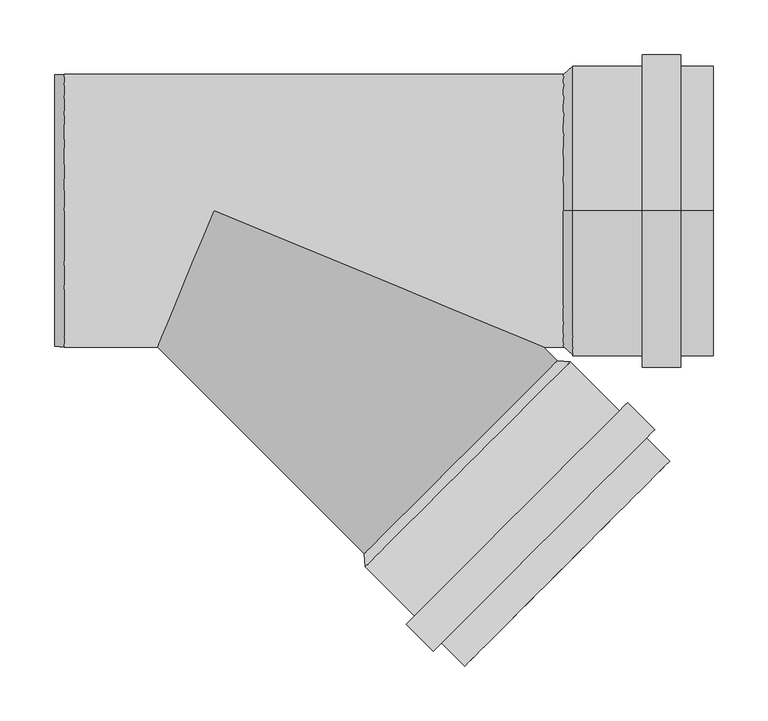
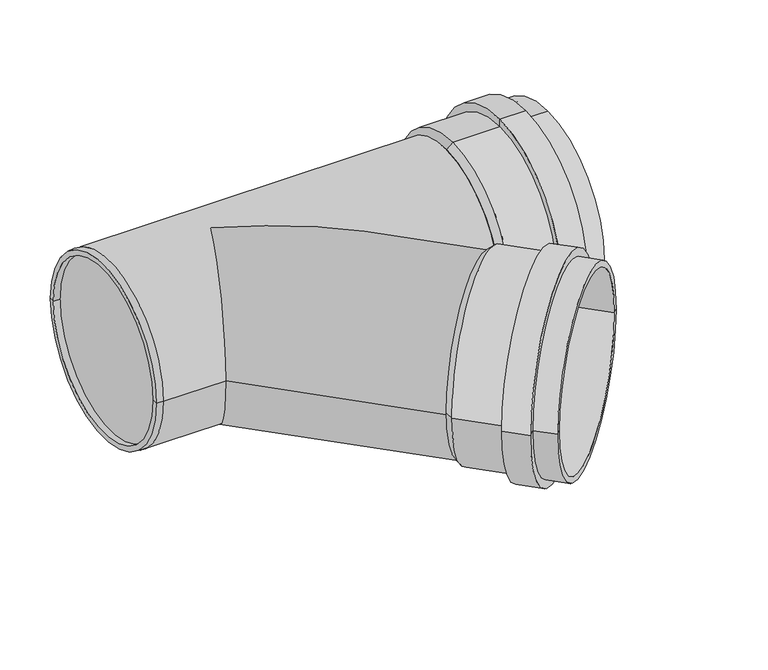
"""IFC4 building model written with IfcOpenShell, lengths in millimetres: pipe fitting geometry, OSMA_KG2000_PPKGEA : Odbočka 45°."""

from ifc_helpers import new_model, si_unit, frame, origin, place, context, project, spatial, polyline, circle_curve, ellipse_curve, source, transform, mapped, element, save
from ifc_brep_helpers import plane_surface, cylinder_surface, revolved_surface, advanced_brep


def pipe_fitting_a6234002(model_context):
    return source(origin(), model_context, "Body", "AdvancedBrep", [
        advanced_brep(
        [(320.6729253, -143.89623, 1.6299565), (143.89623, -320.6729253, 1.6299565), (234.7594514, -411.5361467, 1.6299565), (411.5361467, -234.7594514, 1.6299565), (371.0189281, -183.3527884, 1.6299565), (183.3527884, -371.0189281, 1.6299565), (138.4515078, -326.1176475, 1.6299565), (326.1176475, -138.4515078, 1.6299565), (378.6556813, -175.7160351, 1.6299565), (175.7160351, -378.6556813, 1.6299565), (403.4044187, -200.4647725, 1.6299565), (200.4647725, -403.4044187, 1.6299565), (395.7676654, -208.1015257, 1.6299565), (208.1015257, -395.7676654, 1.6299565), (416.9808689, -229.3147291, 1.6299565), (229.3147291, -416.9808689, 1.6299565), (308.864242, -142.9769912, 1.6299565), (142.9769912, -308.864242, 1.6299565), (314.3089642, -137.5322689, 1.6299565), (137.5322689, -314.3089642, 1.6299565)],
        [
            (0, 1, circle_curve(frame((232.2845776, -232.2845776, 1.6299565), z_axis=(-0.7071067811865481, 0.707106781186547, 0.0), x_axis=(-0.707106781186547, -0.7071067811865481, 0.0)), 125.0)),
            (1, 2),
            (2, 3, circle_curve(frame((323.147799, -323.147799, 1.6299565), z_axis=(0.7071067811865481, -0.707106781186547, 0.0), x_axis=(-0.707106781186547, -0.7071067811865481, 0.0)), 125.0)),
            (3, 0),
            (1, 0, circle_curve(frame((232.2845776, -232.2845776, 1.6299565), z_axis=(-0.7071067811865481, 0.707106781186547, 0.0), x_axis=(-0.707106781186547, -0.7071067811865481, 0.0)), 125.0)),
            (3, 2, circle_curve(frame((323.147799, -323.147799, 1.6299565), z_axis=(0.7071067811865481, -0.707106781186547, 0.0), x_axis=(-0.707106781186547, -0.7071067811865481, 0.0)), 125.0)),
            (4, 5, circle_curve(frame((277.1858582, -277.1858582, 1.6299565), z_axis=(-0.7071067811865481, 0.707106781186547, 0.0), x_axis=(-0.707106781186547, -0.7071067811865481, 0.0)), 132.7)),
            (5, 6),
            (6, 7, circle_curve(frame((232.2845776, -232.2845776, 1.6299565), z_axis=(0.7071067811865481, -0.707106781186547, 0.0), x_axis=(-0.707106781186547, -0.7071067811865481, 0.0)), 132.7)),
            (7, 4),
            (5, 4, circle_curve(frame((277.1858582, -277.1858582, 1.6299565), z_axis=(-0.7071067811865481, 0.707106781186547, 0.0), x_axis=(-0.707106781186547, -0.7071067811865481, 0.0)), 132.7)),
            (7, 6, circle_curve(frame((232.2845776, -232.2845776, 1.6299565), z_axis=(0.7071067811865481, -0.707106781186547, 0.0), x_axis=(-0.707106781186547, -0.7071067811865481, 0.0)), 132.7)),
            (8, 9, circle_curve(frame((277.1858582, -277.1858582, 1.6299565), z_axis=(-0.7071067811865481, 0.707106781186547, 0.0), x_axis=(-0.707106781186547, -0.7071067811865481, 0.0)), 143.5)),
            (9, 5),
            (4, 8),
            (9, 8, circle_curve(frame((277.1858582, -277.1858582, 1.6299565), z_axis=(-0.7071067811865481, 0.707106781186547, 0.0), x_axis=(-0.707106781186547, -0.7071067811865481, 0.0)), 143.5)),
            (10, 11, circle_curve(frame((301.9345956, -301.9345956, 1.6299565), z_axis=(-0.7071067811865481, 0.707106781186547, 0.0), x_axis=(-0.707106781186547, -0.7071067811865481, 0.0)), 143.5)),
            (11, 9),
            (8, 10),
            (11, 10, circle_curve(frame((301.9345956, -301.9345956, 1.6299565), z_axis=(-0.7071067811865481, 0.707106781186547, 0.0), x_axis=(-0.707106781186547, -0.7071067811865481, 0.0)), 143.5)),
            (12, 13, circle_curve(frame((301.9345956, -301.9345956, 1.6299565), z_axis=(-0.7071067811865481, 0.707106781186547, 0.0), x_axis=(-0.707106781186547, -0.7071067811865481, 0.0)), 132.7)),
            (13, 11),
            (10, 12),
            (13, 12, circle_curve(frame((301.9345956, -301.9345956, 1.6299565), z_axis=(-0.7071067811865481, 0.707106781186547, 0.0), x_axis=(-0.707106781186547, -0.7071067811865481, 0.0)), 132.7)),
            (14, 15, circle_curve(frame((323.147799, -323.147799, 1.6299565), z_axis=(-0.7071067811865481, 0.707106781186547, 0.0), x_axis=(-0.707106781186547, -0.7071067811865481, 0.0)), 132.7)),
            (15, 13),
            (12, 14),
            (15, 14, circle_curve(frame((323.147799, -323.147799, 1.6299565), z_axis=(-0.7071067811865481, 0.707106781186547, 0.0), x_axis=(-0.707106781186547, -0.7071067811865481, 0.0)), 132.7)),
            (2, 15),
            (14, 3),
            (16, 17, circle_curve(frame((225.9206166, -225.9206166, 1.6299565), z_axis=(-0.7071067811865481, 0.707106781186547, 0.0), x_axis=(-0.707106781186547, -0.7071067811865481, 0.0)), 117.3)),
            (17, 1),
            (0, 16),
            (17, 16, circle_curve(frame((225.9206166, -225.9206166, 1.6299565), z_axis=(-0.7071067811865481, 0.707106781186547, 0.0), x_axis=(-0.707106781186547, -0.7071067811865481, 0.0)), 117.3)),
            (18, 19, circle_curve(frame((225.9206166, -225.9206166, 1.6299565), z_axis=(-0.7071067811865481, 0.707106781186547, 0.0), x_axis=(-0.707106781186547, -0.7071067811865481, 0.0)), 125.0)),
            (19, 17),
            (16, 18),
            (19, 18, circle_curve(frame((225.9206166, -225.9206166, 1.6299565), z_axis=(-0.7071067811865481, 0.707106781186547, 0.0), x_axis=(-0.707106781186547, -0.7071067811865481, 0.0)), 125.0)),
            (6, 19),
            (18, 7),
        ],
        [
            revolved_surface(polyline([(234.75945140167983, -411.5361466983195, 1.6299565), (143.89622995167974, -320.6729252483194, 1.6299565)]), (2210.751122, -2210.751122, 1.6299565), (0.7071067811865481, -0.707106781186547, 0.0)),
            cylinder_surface(frame((2210.751122, -2210.751122, 1.6299565), z_axis=(0.7071067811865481, -0.707106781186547, 0.0), x_axis=(-0.707106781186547, -0.7071067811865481, 0.0)), 132.7),
            plane_surface(frame((277.1858582, -277.1858582, 1.6299565), z_axis=(-0.7071067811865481, 0.707106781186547, 0.0), x_axis=(-0.707106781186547, -0.7071067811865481, 0.0))),
            cylinder_surface(frame((2210.751122, -2210.751122, 1.6299565), z_axis=(0.7071067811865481, -0.707106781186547, 0.0), x_axis=(-0.707106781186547, -0.7071067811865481, 0.0)), 143.5),
            plane_surface(frame((301.9345956, -301.9345956, 1.6299565), z_axis=(0.7071067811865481, -0.707106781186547, 0.0), x_axis=(-0.707106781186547, -0.7071067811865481, 0.0))),
            plane_surface(frame((323.147799, -323.147799, 1.6299565), z_axis=(0.7071067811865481, -0.707106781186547, 0.0), x_axis=(-0.707106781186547, -0.7071067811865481, 0.0))),
            revolved_surface(polyline([(143.89623, -320.6729253, 1.6299565), (142.9769912, -308.864242, 1.6299565)]), (2210.751122, -2210.751122, 1.6299565), (0.7071067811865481, -0.707106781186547, 0.0)),
            plane_surface(frame((225.9206166, -225.9206166, 1.6299565), z_axis=(-0.7071067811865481, 0.707106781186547, 0.0), x_axis=(-0.707106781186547, -0.7071067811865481, 0.0))),
            revolved_surface(polyline([(137.5322689, -314.3089642, 1.6299565), (138.4515078, -326.1176475, 1.6299565)]), (2210.751122, -2210.751122, 1.6299565), (0.7071067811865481, -0.707106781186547, 0.0)),
        ],
        [
            (0, [[1, 2, 3, 4]]),
            (0, [[5, -4, 6, -2]]),
            (1, [[7, 8, 9, 10]]),
            (1, [[11, -10, 12, -8]]),
            (2, [[13, 14, -7, 15]]),
            (2, [[16, -15, -11, -14]]),
            (3, [[17, 18, -13, 19]]),
            (3, [[20, -19, -16, -18]]),
            (4, [[21, 22, -17, 23]]),
            (4, [[24, -23, -20, -22]]),
            (1, [[25, 26, -21, 27]]),
            (1, [[28, -27, -24, -26]]),
            (5, [[-3, 29, -25, 30]]),
            (5, [[-6, -30, -28, -29]]),
            (6, [[31, 32, -1, 33]]),
            (6, [[34, -33, -5, -32]]),
            (7, [[35, 36, -31, 37]]),
            (7, [[38, -37, -34, -36]]),
            (8, [[-9, 39, -35, 40]]),
            (8, [[-12, -40, -38, -39]]),
        ],
    ),
        advanced_brep(
        [(328.5, 0.0, -125.0), (328.5, 0.0, 125.0), (457.0, 0.0, 125.0), (457.0, 0.0, -125.0), (392.0, 0.0, -132.7), (392.0, 0.0, 132.7), (328.5, 0.0, 132.7), (328.5, 0.0, -132.7), (392.0, 0.0, -143.5), (392.0, 0.0, 143.5), (427.0, 0.0, -143.5), (427.0, 0.0, 143.5), (427.0, 0.0, -132.7), (427.0, 0.0, 132.7), (457.0, 0.0, -132.7), (457.0, 0.0, 132.7), (319.5, 0.0, -117.3), (319.5, 0.0, 117.3), (319.5, 0.0, -125.0), (319.5, 0.0, 125.0)],
        [
            (0, 1, circle_curve(frame((328.5, 0.0, 0.0), z_axis=(-1.0, 0.0, 0.0), x_axis=(0.0, 0.0, 1.0)), 125.0)),
            (1, 2),
            (2, 3, circle_curve(frame((457.0, 0.0, 0.0), z_axis=(1.0, 0.0, 0.0), x_axis=(0.0, 0.0, 1.0)), 125.0)),
            (3, 0),
            (1, 0, circle_curve(frame((328.5, 0.0, 0.0), z_axis=(-1.0, 0.0, 0.0), x_axis=(0.0, 0.0, 1.0)), 125.0)),
            (3, 2, circle_curve(frame((457.0, 0.0, 0.0), z_axis=(1.0, 0.0, 0.0), x_axis=(0.0, 0.0, 1.0)), 125.0)),
            (4, 5, circle_curve(frame((392.0, 0.0, 0.0), z_axis=(-1.0, 0.0, 0.0), x_axis=(0.0, 0.0, 1.0)), 132.7)),
            (5, 6),
            (6, 7, circle_curve(frame((328.5, 0.0, 0.0), z_axis=(1.0, 0.0, 0.0), x_axis=(0.0, 0.0, 1.0)), 132.7)),
            (7, 4),
            (5, 4, circle_curve(frame((392.0, 0.0, 0.0), z_axis=(-1.0, 0.0, 0.0), x_axis=(0.0, 0.0, 1.0)), 132.7)),
            (7, 6, circle_curve(frame((328.5, 0.0, 0.0), z_axis=(1.0, 0.0, 0.0), x_axis=(0.0, 0.0, 1.0)), 132.7)),
            (8, 9, circle_curve(frame((392.0, 0.0, 0.0), z_axis=(-1.0, 0.0, 0.0), x_axis=(0.0, 0.0, 1.0)), 143.5)),
            (9, 5),
            (4, 8),
            (9, 8, circle_curve(frame((392.0, 0.0, 0.0), z_axis=(-1.0, 0.0, 0.0), x_axis=(0.0, 0.0, 1.0)), 143.5)),
            (10, 11, circle_curve(frame((427.0, 0.0, 0.0), z_axis=(-1.0, 0.0, 0.0), x_axis=(0.0, 0.0, 1.0)), 143.5)),
            (11, 9),
            (8, 10),
            (11, 10, circle_curve(frame((427.0, 0.0, 0.0), z_axis=(-1.0, 0.0, 0.0), x_axis=(0.0, 0.0, 1.0)), 143.5)),
            (12, 13, circle_curve(frame((427.0, 0.0, 0.0), z_axis=(-1.0, 0.0, 0.0), x_axis=(0.0, 0.0, 1.0)), 132.7)),
            (13, 11),
            (10, 12),
            (13, 12, circle_curve(frame((427.0, 0.0, 0.0), z_axis=(-1.0, 0.0, 0.0), x_axis=(0.0, 0.0, 1.0)), 132.7)),
            (14, 15, circle_curve(frame((457.0, 0.0, 0.0), z_axis=(-1.0, 0.0, 0.0), x_axis=(0.0, 0.0, 1.0)), 132.7)),
            (15, 13),
            (12, 14),
            (15, 14, circle_curve(frame((457.0, 0.0, 0.0), z_axis=(-1.0, 0.0, 0.0), x_axis=(0.0, 0.0, 1.0)), 132.7)),
            (2, 15),
            (14, 3),
            (16, 17, circle_curve(frame((319.5, 0.0, 0.0), z_axis=(-1.0, 0.0, 0.0), x_axis=(0.0, 0.0, 1.0)), 117.3)),
            (17, 1),
            (0, 16),
            (17, 16, circle_curve(frame((319.5, 0.0, 0.0), z_axis=(-1.0, 0.0, 0.0), x_axis=(0.0, 0.0, 1.0)), 117.3)),
            (18, 19, circle_curve(frame((319.5, 0.0, 0.0), z_axis=(-1.0, 0.0, 0.0), x_axis=(0.0, 0.0, 1.0)), 125.0)),
            (19, 17),
            (16, 18),
            (19, 18, circle_curve(frame((319.5, 0.0, 0.0), z_axis=(-1.0, 0.0, 0.0), x_axis=(0.0, 0.0, 1.0)), 125.0)),
            (6, 19),
            (18, 7),
        ],
        [
            revolved_surface(polyline([(457.0, 0.0, 125.0), (328.5, 0.0, 125.0)]), (3126.4742198, 0.0, 0.0), (1.0, 0.0, 0.0)),
            cylinder_surface(frame((3126.4742198, 0.0, 0.0), z_axis=(1.0, 0.0, 0.0), x_axis=(0.0, 0.0, 1.0)), 132.7),
            plane_surface(frame((392.0, 0.0, 0.0), z_axis=(-1.0, 0.0, 0.0), x_axis=(0.0, 0.0, 1.0))),
            cylinder_surface(frame((3126.4742198, 0.0, 0.0), z_axis=(1.0, 0.0, 0.0), x_axis=(0.0, 0.0, 1.0)), 143.5),
            plane_surface(frame((427.0, 0.0, 0.0), z_axis=(1.0, 0.0, 0.0), x_axis=(0.0, 0.0, 1.0))),
            plane_surface(frame((457.0, 0.0, 0.0), z_axis=(1.0, 0.0, 0.0), x_axis=(0.0, 0.0, 1.0))),
            revolved_surface(polyline([(328.5, 0.0, 125.0), (319.5, 0.0, 117.3)]), (3126.4742198, 0.0, 0.0), (1.0, 0.0, 0.0)),
            plane_surface(frame((319.5, 0.0, 0.0), z_axis=(-1.0, 0.0, 0.0), x_axis=(0.0, 0.0, 1.0))),
            revolved_surface(polyline([(319.5, 0.0, 125.0), (328.5, 0.0, 132.7)]), (3126.4742198, 0.0, 0.0), (1.0, 0.0, 0.0)),
        ],
        [
            (0, [[1, 2, 3, 4]]),
            (0, [[5, -4, 6, -2]]),
            (1, [[7, 8, 9, 10]]),
            (1, [[11, -10, 12, -8]]),
            (2, [[13, 14, -7, 15]]),
            (2, [[16, -15, -11, -14]]),
            (3, [[17, 18, -13, 19]]),
            (3, [[20, -19, -16, -18]]),
            (4, [[21, 22, -17, 23]]),
            (4, [[24, -23, -20, -22]]),
            (1, [[25, 26, -21, 27]]),
            (1, [[28, -27, -24, -26]]),
            (5, [[-3, 29, -25, 30]]),
            (5, [[-6, -30, -28, -29]]),
            (6, [[31, 32, -1, 33]]),
            (6, [[34, -33, -5, -32]]),
            (7, [[35, 36, -31, 37]]),
            (7, [[38, -37, -34, -36]]),
            (8, [[-9, 39, -35, 40]]),
            (8, [[-12, -40, -38, -39]]),
        ],
    ),
        advanced_brep(
        [(140.7142495, -317.4909448, 0.0), (317.4909448, -140.7142495, 0.0), (301.7766953, -125.0, 0.0), (0.0, 0.0, 125.0), (-51.7766953, -125.0, 0.0), (0.0, 0.0, -125.0), (-146.0, -117.3, 0.0), (-146.0, 117.3, 0.0), (-146.0, 124.209508, 0.0), (-146.0, -124.209508, 0.0), (-137.0, -117.3, 0.0), (-137.0, 117.3, 0.0), (-137.0, 125.0, 0.0), (-137.0, -125.0, 0.0), (324.0, 125.0, 0.0), (324.0, -125.0, 0.0)],
        [
            (0, 1, circle_curve(frame((229.1025971, -229.1025971, 0.0), z_axis=(0.7071067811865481, -0.7071067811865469, 0.0), x_axis=(0.7071067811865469, 0.7071067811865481, 0.0)), 125.0)),
            (1, 0, circle_curve(frame((229.1025971, -229.1025971, 0.0), z_axis=(0.7071067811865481, -0.7071067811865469, 0.0), x_axis=(0.7071067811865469, 0.7071067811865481, 0.0)), 125.0)),
            (1, 2),
            (2, 3, ellipse_curve(frame((0.0, 0.0, 0.0), z_axis=(-0.3826834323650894, -0.923879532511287, 0.0), x_axis=(-0.923879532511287, 0.38268343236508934, 0.0)), 326.6407412, 125.0)),
            (3, 4, ellipse_curve(frame((0.0, 0.0, 0.0), z_axis=(0.923879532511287, -0.3826834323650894, 0.0), x_axis=(0.38268343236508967, 0.9238795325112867, 0.0)), 135.299025, 125.0)),
            (4, 0),
            (4, 5, ellipse_curve(frame((0.0, 0.0, 0.0), z_axis=(0.923879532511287, -0.3826834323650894, 0.0), x_axis=(0.38268343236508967, 0.9238795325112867, 0.0)), 135.299025, 125.0)),
            (5, 2, ellipse_curve(frame((0.0, 0.0, 0.0), z_axis=(-0.3826834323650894, -0.923879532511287, 0.0), x_axis=(-0.923879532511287, 0.38268343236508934, 0.0)), 326.6407412, 125.0)),
            (6, 7, circle_curve(frame((-146.0, 0.0, 0.0), z_axis=(1.0, 0.0, 0.0), x_axis=(0.0, 1.0, 0.0)), 117.3)),
            (7, 8),
            (8, 9, circle_curve(frame((-146.0, 0.0, 0.0), z_axis=(-1.0, 0.0, 0.0), x_axis=(0.0, 1.0, 0.0)), 124.209508)),
            (9, 6),
            (7, 6, circle_curve(frame((-146.0, 0.0, 0.0), z_axis=(1.0, 0.0, 0.0), x_axis=(0.0, 1.0, 0.0)), 117.3)),
            (9, 8, circle_curve(frame((-146.0, 0.0, 0.0), z_axis=(-1.0, 0.0, 0.0), x_axis=(0.0, 1.0, 0.0)), 124.209508)),
            (6, 10),
            (10, 11, circle_curve(frame((-137.0, 0.0, 0.0), z_axis=(1.0, 0.0, 0.0), x_axis=(0.0, 1.0, 0.0)), 117.3)),
            (11, 7),
            (11, 10, circle_curve(frame((-137.0, 0.0, 0.0), z_axis=(1.0, 0.0, 0.0), x_axis=(0.0, 1.0, 0.0)), 117.3)),
            (8, 12),
            (12, 13, circle_curve(frame((-137.0, 0.0, 0.0), z_axis=(-1.0, 0.0, 0.0), x_axis=(0.0, 1.0, 0.0)), 125.0)),
            (13, 9),
            (13, 12, circle_curve(frame((-137.0, 0.0, 0.0), z_axis=(-1.0, 0.0, 0.0), x_axis=(0.0, 1.0, 0.0)), 125.0)),
            (14, 15, circle_curve(frame((324.0, 0.0, 0.0), z_axis=(1.0, 0.0, 0.0), x_axis=(0.0, -1.0, 0.0)), 125.0)),
            (15, 14, circle_curve(frame((324.0, 0.0, 0.0), z_axis=(1.0, 0.0, 0.0), x_axis=(0.0, -1.0, 0.0)), 125.0)),
            (14, 12),
            (13, 4),
            (2, 15),
        ],
        [
            plane_surface(frame((229.1025971, -229.1025971, 0.0), z_axis=(0.7071067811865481, -0.7071067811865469, 0.0), x_axis=(0.0, 0.0, 1.0))),
            cylinder_surface(frame((0.0, 0.0, 0.0), z_axis=(-0.7071067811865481, 0.7071067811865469, 0.0), x_axis=(0.7071067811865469, 0.7071067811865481, 0.0)), 125.0),
            plane_surface(frame((-146.0, 0.0, 0.0), z_axis=(-1.0, 0.0, 0.0), x_axis=(0.0, 1.0, 0.0))),
            revolved_surface(polyline([(-146.0, 117.3, 0.0), (-137.0, 117.3, 0.0)]), (2233.0, 0.0, 0.0), (-1.0, 0.0, 0.0)),
            revolved_surface(polyline([(-137.0, 125.0, 0.0), (-146.0, 124.209508, 0.0)]), (2233.0, 0.0, 0.0), (-1.0, 0.0, 0.0)),
            plane_surface(frame((324.0, 0.0, 0.0), z_axis=(1.0, 0.0, 0.0), x_axis=(0.0, 0.0, 1.0))),
            plane_surface(frame((-137.0, 0.0, 0.0), z_axis=(-1.0, 0.0, 0.0), x_axis=(0.0, 0.0, 1.0))),
            cylinder_surface(frame((324.0, 0.0, 0.0), z_axis=(1.0, 0.0, 0.0), x_axis=(0.0, -1.0, 0.0)), 125.0),
        ],
        [
            (0, [[1, 2]]),
            (1, [[-2, 3, 4, 5, 6]]),
            (1, [[-1, -6, 7, 8, -3]]),
            (2, [[9, 10, 11, 12]]),
            (2, [[-10, 13, -12, 14]]),
            (3, [[-9, 15, 16, 17]]),
            (3, [[-13, -17, 18, -15]]),
            (4, [[-11, 19, 20, 21]]),
            (4, [[-14, -21, 22, -19]]),
            (5, [[23, 24]]),
            (6, [[-16, -18]]),
            (7, [[-23, 25, -22, 26, -5, -4, 27]]),
            (7, [[-24, -27, -8, -7, -26, -20, -25]]),
        ],
    ),
    ])


if __name__ == "__main__":
    model = new_model("IFC4")
    model_context = context("Model", 3, world=origin())
    ifc_project = project(units=[si_unit("LENGTHUNIT", "METRE", prefix="MILLI")], contexts=[model_context])
    site = spatial("IfcSite", under=ifc_project)
    building = spatial("IfcBuilding", under=site)
    placement = place(None, origin())
    pipe_fitting_shape = pipe_fitting_a6234002(model_context)
    element("IfcPipeFitting", 1, ObjectType="OSMA_KG2000_PPKGEA : Odbočka 45°", at=placement, inside=building, context=model_context, shape_type="MappedRepresentation", body=[
        mapped(pipe_fitting_shape, transform((0.0, 0.0, 0.0), x_axis=(1.0, 0.0, 0.0), y_axis=(0.0, 1.0, 0.0), z_axis=(0.0, 0.0, 1.0))),
    ])
    save(model, "model.ifc")
